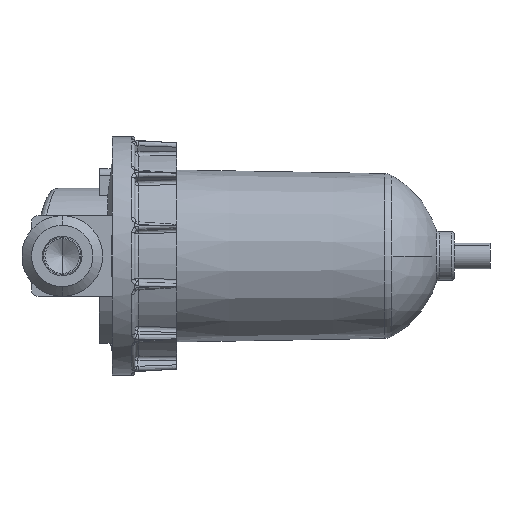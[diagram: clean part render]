
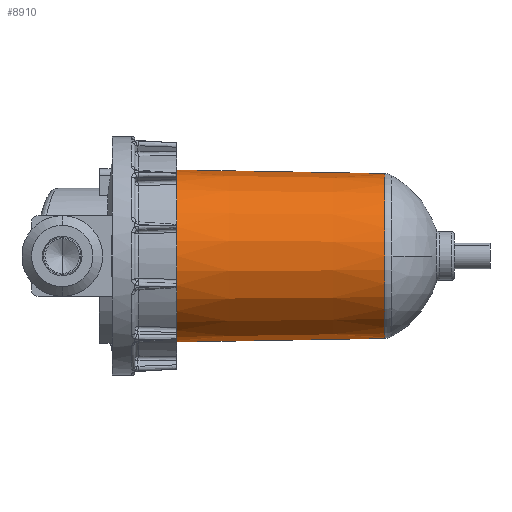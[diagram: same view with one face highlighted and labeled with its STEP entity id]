
A CAD part, left-side view. The second image highlights one B-rep face of the part: STEP entity #8910.
In plain terms, the highlighted conical face has half-angle 1 degrees and reference radius 25.5 mm.
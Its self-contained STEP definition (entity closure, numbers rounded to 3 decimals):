
#438 = ORIENTED_EDGE ( 'NONE', *, *, #3740, .T. ) ;
#624 = LINE ( 'NONE', #14314, #9467 ) ;
#940 = DIRECTION ( 'NONE',  ( 0., 0., -1. ) ) ;
#999 = DIRECTION ( 'NONE',  ( 0., 1., 0. ) ) ;
#1044 = EDGE_CURVE ( 'NONE', #12048, #7150, #12461, .T. ) ;
#2037 = EDGE_CURVE ( 'NONE', #13739, #12048, #624, .T. ) ;
#2922 = DIRECTION ( 'NONE',  ( 0., 1., 0.017 ) ) ;
#3179 = CARTESIAN_POINT ( 'NONE',  ( 0., 1.155, 0. ) ) ;
#3183 = CARTESIAN_POINT ( 'NONE',  ( 0., 1.155, 25.52 ) ) ;
#3227 = ORIENTED_EDGE ( 'NONE', *, *, #2037, .F. ) ;
#3448 = CARTESIAN_POINT ( 'NONE',  ( 0., 65.5, -26.643 ) ) ;
#3740 = EDGE_CURVE ( 'NONE', #10854, #7150, #12365, .T. ) ;
#5429 = CARTESIAN_POINT ( 'NONE',  ( 0., 65.5, 0. ) ) ;
#5679 = ORIENTED_EDGE ( 'NONE', *, *, #1044, .F. ) ;
#5764 = CARTESIAN_POINT ( 'NONE',  ( 0., 0., -25.5 ) ) ;
#6020 = CIRCLE ( 'NONE', #10831, 25.52 ) ;
#6552 = DIRECTION ( 'NONE',  ( 0., 0., 1. ) ) ;
#7150 = VERTEX_POINT ( 'NONE', #3448 ) ;
#8058 = EDGE_LOOP ( 'NONE', ( #13493, #438, #5679, #3227 ) ) ;
#8702 = DIRECTION ( 'NONE',  ( 0., 1., 0. ) ) ;
#8910 = ADVANCED_FACE ( 'NONE', ( #13666 ), #14371, .T. ) ;
#9467 = VECTOR ( 'NONE', #2922, 1000. ) ;
#9581 = EDGE_CURVE ( 'NONE', #13739, #10854, #6020, .T. ) ;
#9834 = CARTESIAN_POINT ( 'NONE',  ( 0., 65.5, 26.643 ) ) ;
#10831 = AXIS2_PLACEMENT_3D ( 'NONE', #3179, #13451, #940 ) ;
#10854 = VERTEX_POINT ( 'NONE', #12172 ) ;
#12048 = VERTEX_POINT ( 'NONE', #9834 ) ;
#12172 = CARTESIAN_POINT ( 'NONE',  ( 0., 1.155, -25.52 ) ) ;
#12365 = LINE ( 'NONE', #5764, #13439 ) ;
#12413 = AXIS2_PLACEMENT_3D ( 'NONE', #13092, #8702, #13150 ) ;
#12461 = CIRCLE ( 'NONE', #13689, 26.643 ) ;
#13092 = CARTESIAN_POINT ( 'NONE',  ( 0., 0., 0. ) ) ;
#13150 = DIRECTION ( 'NONE',  ( 0., 0., 1. ) ) ;
#13439 = VECTOR ( 'NONE', #13724, 1000. ) ;
#13451 = DIRECTION ( 'NONE',  ( 0., 1., 0. ) ) ;
#13493 = ORIENTED_EDGE ( 'NONE', *, *, #9581, .T. ) ;
#13666 = FACE_OUTER_BOUND ( 'NONE', #8058, .T. ) ;
#13689 = AXIS2_PLACEMENT_3D ( 'NONE', #5429, #999, #6552 ) ;
#13724 = DIRECTION ( 'NONE',  ( 0., 1., -0.017 ) ) ;
#13739 = VERTEX_POINT ( 'NONE', #3183 ) ;
#14314 = CARTESIAN_POINT ( 'NONE',  ( 0., 0., 25.5 ) ) ;
#14371 = CONICAL_SURFACE ( 'NONE', #12413, 25.5, 0.017 ) ;
